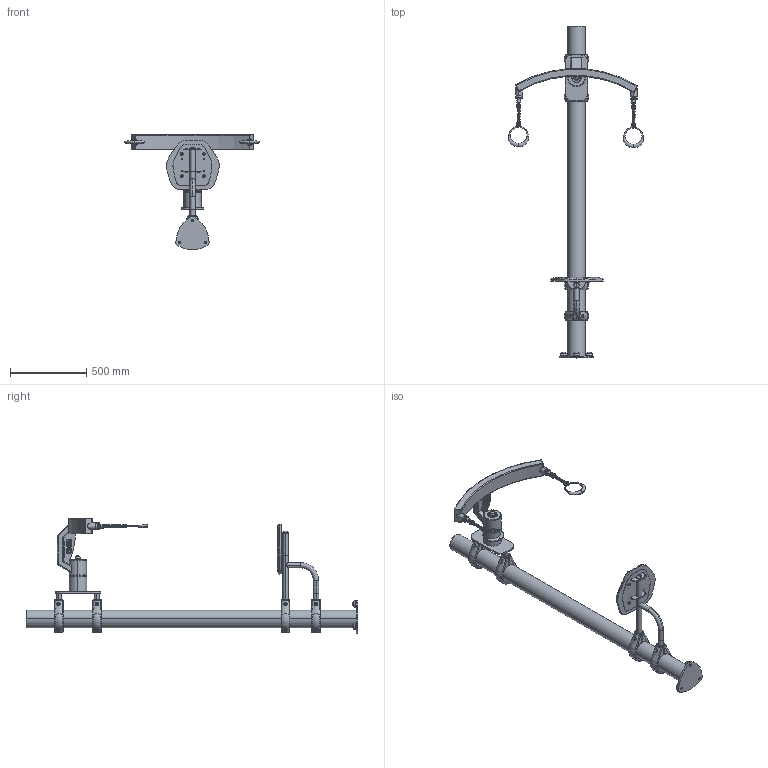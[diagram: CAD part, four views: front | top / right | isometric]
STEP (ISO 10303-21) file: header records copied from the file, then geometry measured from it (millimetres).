
FILE_DESCRIPTION (( 'STEP AP214' ), '1' );
FILE_NAME ('PMS0813 - PARAPENTE.STEP', '2025-05-19T06:03:59', ( '' ), ( '' ), 'SwSTEP 2.0', 'SolidWorks 2024', '' );
FILE_SCHEMA (( 'AUTOMOTIVE_DESIGN' ));
Length unit declared in the file: millimetre
Products named in the file (1): PMS0813 - PARAPENTE
Bounding box: 887.18 x 2175 x 753.23 mm (x, y, z)
Surface area: 2164529.3 mm2 (no closed solid volume)
Topology: 0 solids, 157 shells, 1339 faces, 4998 edges, 3634 vertices
Faces by surface type: cylinder 422, bspline 339, plane 312, torus 209, cone 47, sphere 10
Entity records: 79237 total; most frequent: CARTESIAN_POINT 41560, ORIENTED_EDGE 7378, DIRECTION 7130, EDGE_CURVE 4991, VERTEX_POINT 3634, AXIS2_PLACEMENT_3D 2764, CIRCLE 1763, LINE 1602
